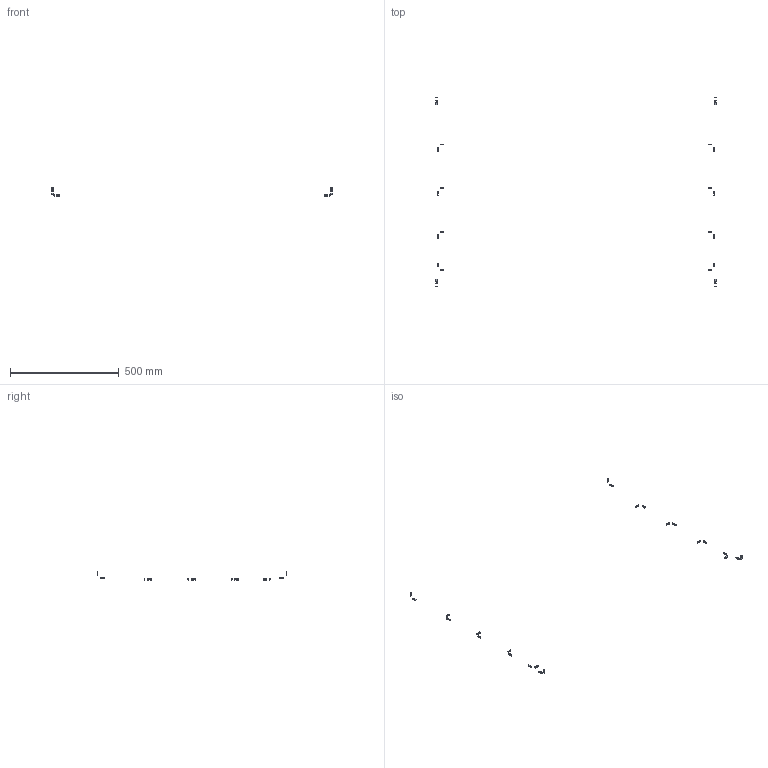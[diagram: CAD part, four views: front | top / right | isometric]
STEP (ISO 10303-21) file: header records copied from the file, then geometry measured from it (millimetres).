
FILE_DESCRIPTION(/* description */ (''),/* implementation_level */ '2;1');
FILE_NAME(/* name */ 'FR876A~1',/* time_stamp */ '2014-02-14T19:50:33+01:00',/* author */ (''),/* organization */ (''),/* preprocessor_version */ 'ST-DEVELOPER v14',/* originating_system */ '',/* authorisation */ '');
FILE_SCHEMA (('AUTOMOTIVE_DESIGN'));
Length unit declared in the file: millimetre
Products named in the file (2): Document; nut tslot, post, M5
Assembly tree (12 placements, depth 2):
  Document
    nut tslot, post, M5  x12
Bounding box: 1288.3 x 870.4 x 38.15 mm (x, y, z)
Volume: 7560.3 mm3; surface area: 10068.3 mm2
Topology: 24 solids, 24 shells, 312 faces, 864 edges, 576 vertices
Faces by surface type: plane 264, bspline 48
Entity records: 12513 total; most frequent: CARTESIAN_POINT 5943, B_SPLINE_CURVE_WITH_KNOTS 1300, ORIENTED_EDGE 936, PCURVE 936, DEFINITIONAL_REPRESENTATION 936, SURFACE_CURVE 468, EDGE_CURVE 468, VERTEX_POINT 312
